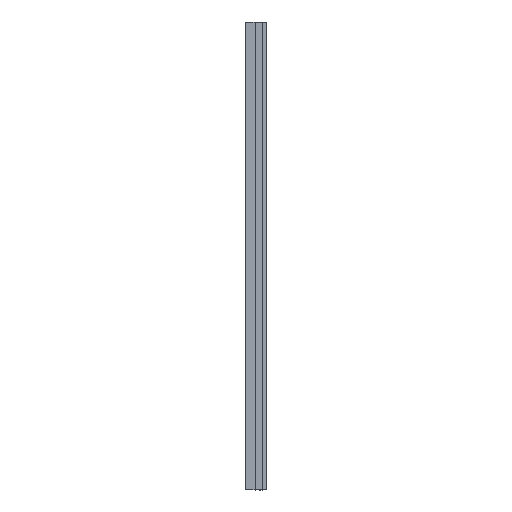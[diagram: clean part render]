
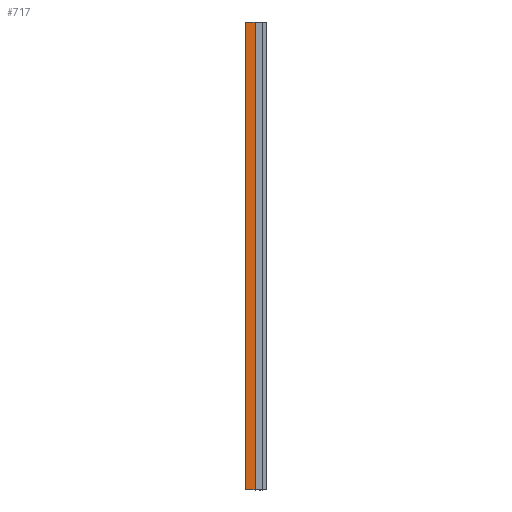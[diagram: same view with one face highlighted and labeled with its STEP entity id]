
A CAD part, left-side view. The second image highlights one B-rep face of the part: STEP entity #717.
In plain terms, the highlighted planar face has unit normal (-1, 0, 0).
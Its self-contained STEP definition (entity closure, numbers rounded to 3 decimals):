
#40 = VERTEX_POINT ( 'NONE', #712 ) ;
#74 = DIRECTION ( 'NONE',  ( -1., 0., 0. ) ) ;
#84 = DIRECTION ( 'NONE',  ( 0., 0., -1. ) ) ;
#110 = VERTEX_POINT ( 'NONE', #833 ) ;
#191 = DIRECTION ( 'NONE',  ( 0., 1., 0. ) ) ;
#214 = ORIENTED_EDGE ( 'NONE', *, *, #966, .F. ) ;
#257 = EDGE_CURVE ( 'NONE', #110, #634, #1394, .T. ) ;
#317 = LINE ( 'NONE', #443, #1285 ) ;
#343 = FACE_OUTER_BOUND ( 'NONE', #1226, .T. ) ;
#415 = CARTESIAN_POINT ( 'NONE',  ( 13.779, 0.508, 3048. ) ) ;
#427 = VERTEX_POINT ( 'NONE', #789 ) ;
#443 = CARTESIAN_POINT ( 'NONE',  ( 13.779, 0.508, 3048. ) ) ;
#484 = CARTESIAN_POINT ( 'NONE',  ( 13.779, 0.508, 0. ) ) ;
#527 = CARTESIAN_POINT ( 'NONE',  ( 13.779, 0.508, 3048. ) ) ;
#543 = CARTESIAN_POINT ( 'NONE',  ( 13.779, 65.088, 0. ) ) ;
#553 = LINE ( 'NONE', #484, #816 ) ;
#593 = ORIENTED_EDGE ( 'NONE', *, *, #257, .T. ) ;
#634 = VERTEX_POINT ( 'NONE', #543 ) ;
#646 = PLANE ( 'NONE',  #683 ) ;
#683 = AXIS2_PLACEMENT_3D ( 'NONE', #415, #74, #749 ) ;
#699 = CARTESIAN_POINT ( 'NONE',  ( 13.779, 65.087, 3048. ) ) ;
#712 = CARTESIAN_POINT ( 'NONE',  ( 13.779, 0.508, 3048. ) ) ;
#717 = ADVANCED_FACE ( 'NONE', ( #343 ), #646, .T. ) ;
#749 = DIRECTION ( 'NONE',  ( 0., -1., 0. ) ) ;
#789 = CARTESIAN_POINT ( 'NONE',  ( 13.779, 0.508, 0. ) ) ;
#816 = VECTOR ( 'NONE', #940, 1000. ) ;
#833 = CARTESIAN_POINT ( 'NONE',  ( 13.779, 65.087, 3048. ) ) ;
#912 = ORIENTED_EDGE ( 'NONE', *, *, #993, .T. ) ;
#940 = DIRECTION ( 'NONE',  ( 0., 1., 0. ) ) ;
#950 = VECTOR ( 'NONE', #84, 1000. ) ;
#966 = EDGE_CURVE ( 'NONE', #40, #427, #1254, .T. ) ;
#993 = EDGE_CURVE ( 'NONE', #40, #110, #317, .T. ) ;
#1226 = EDGE_LOOP ( 'NONE', ( #1450, #214, #912, #593 ) ) ;
#1254 = LINE ( 'NONE', #527, #950 ) ;
#1272 = DIRECTION ( 'NONE',  ( 0., 0., -1. ) ) ;
#1281 = VECTOR ( 'NONE', #1272, 1000. ) ;
#1285 = VECTOR ( 'NONE', #191, 1000. ) ;
#1394 = LINE ( 'NONE', #699, #1281 ) ;
#1450 = ORIENTED_EDGE ( 'NONE', *, *, #1488, .F. ) ;
#1488 = EDGE_CURVE ( 'NONE', #427, #634, #553, .T. ) ;
